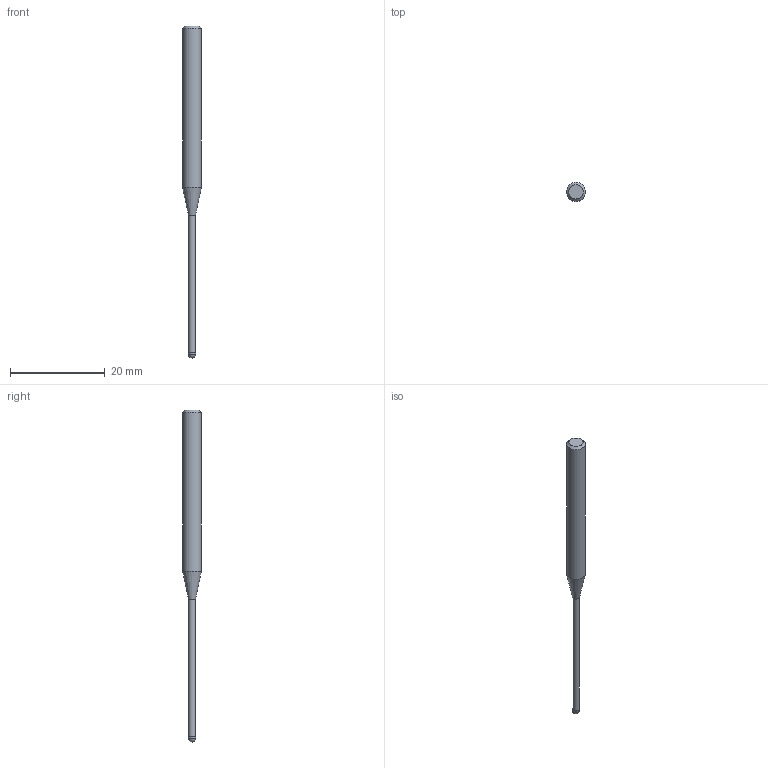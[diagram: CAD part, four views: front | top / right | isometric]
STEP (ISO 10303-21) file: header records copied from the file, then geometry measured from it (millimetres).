
FILE_DESCRIPTION((''),'2;1');
FILE_NAME('C:\Users\nsx150\AppData\Local\Temp\Mastercam 2021\ARV7HD45SN\TEMP.step','2023-06-13T16:36:42',(''),(''),'STEP Write','Mastercam 2021 ... CNC Software, Inc.','');
FILE_SCHEMA(('AUTOMOTIVE_DESIGN'));
Length unit declared in the file: millimetre
Products named in the file (1): None
Bounding box: 4 x 4 x 70 mm (x, y, z)
Volume: 512.6 mm3; surface area: 628.6 mm2
Topology: 2 solids, 2 shells, 9 faces, 14 edges, 8 vertices
Faces by surface type: plane 3, cylinder 3, cone 2, sphere 1
Full cylindrical faces by diameter (mm): 1.45 x1, 1.5 x1, 4 x1
Entity records: 211 total; most frequent: DIRECTION 36, CARTESIAN_POINT 25, AXIS2_PLACEMENT_3D 18, ORIENTED_EDGE 14, EDGE_LOOP 14, STYLED_ITEM 12, ADVANCED_FACE 9, FACE_BOUND 8
